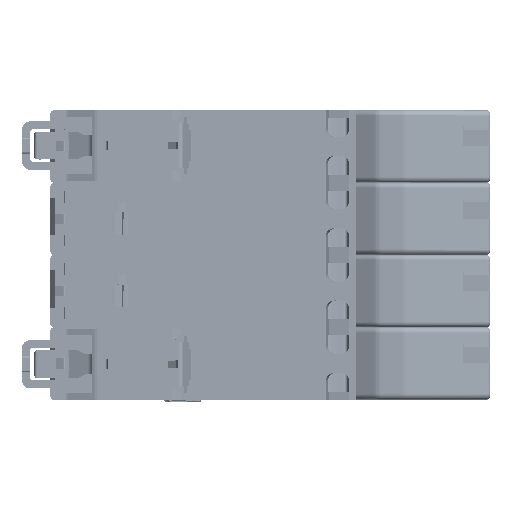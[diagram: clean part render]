
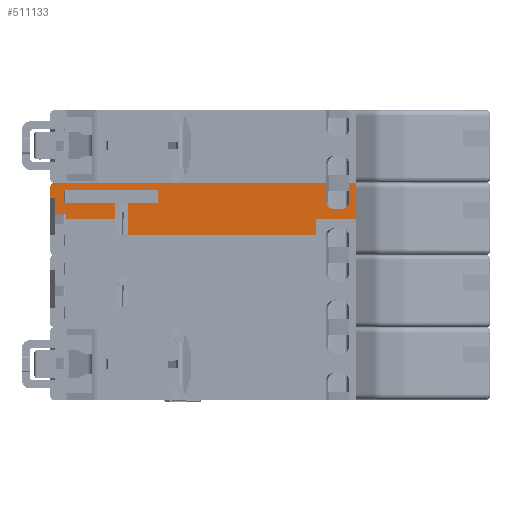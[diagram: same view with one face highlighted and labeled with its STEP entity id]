
A CAD part, top view. The second image highlights one B-rep face of the part: STEP entity #511133.
In plain terms, the highlighted planar face has unit normal (0, 0, 1).
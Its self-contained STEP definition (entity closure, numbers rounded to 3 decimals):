
#493748=DIRECTION('',(-1.,0.,0.));
#493749=VECTOR('',#493748,9.);
#493750=CARTESIAN_POINT('',(12.,33.888,-5.5));
#493751=LINE('',#493750,#493749);
#493935=DIRECTION('',(1.,0.,0.));
#493936=VECTOR('',#493935,0.8);
#493937=CARTESIAN_POINT('',(0.,37.838,-5.5));
#493938=LINE('',#493937,#493936);
#493939=DIRECTION('',(0.,-1.,0.));
#493940=VECTOR('',#493939,2.1);
#493941=CARTESIAN_POINT('',(0.,39.938,-5.5));
#493942=LINE('',#493941,#493940);
#493943=CARTESIAN_POINT('',(0.7,39.938,-5.5));
#493944=DIRECTION('',(0.,0.,1.));
#493945=DIRECTION('',(0.,1.,0.));
#493946=AXIS2_PLACEMENT_3D('',#493943,#493944,#493945);
#493948=DIRECTION('',(-1.,0.,0.));
#493949=VECTOR('',#493948,50.7);
#493950=CARTESIAN_POINT('',(51.4,40.638,-5.5));
#493951=LINE('',#493950,#493949);
#493952=DIRECTION('',(0.,1.,0.));
#493953=VECTOR('',#493952,3.5);
#493954=CARTESIAN_POINT('',(51.4,37.138,-5.5));
#493955=LINE('',#493954,#493953);
#493956=DIRECTION('',(-1.,0.,0.));
#493957=VECTOR('',#493956,1.233);
#493958=CARTESIAN_POINT('',(54.166,35.638,-5.5));
#493959=LINE('',#493958,#493957);
#493960=DIRECTION('',(-1.,0.,0.));
#493961=VECTOR('',#493960,2.8);
#493962=CARTESIAN_POINT('',(58.5,40.638,-5.5));
#493963=LINE('',#493962,#493961);
#493964=DIRECTION('',(0.,1.,0.));
#493965=VECTOR('',#493964,3.);
#493966=CARTESIAN_POINT('',(49.5,30.888,-5.5));
#493967=LINE('',#493966,#493965);
#493968=DIRECTION('',(1.,0.,0.));
#493969=VECTOR('',#493968,35.);
#493970=CARTESIAN_POINT('',(14.5,30.888,-5.5));
#493971=LINE('',#493970,#493969);
#493972=DIRECTION('',(-1.,0.,0.));
#493973=VECTOR('',#493972,5.5);
#493974=CARTESIAN_POINT('',(20.,36.888,-5.5));
#493975=LINE('',#493974,#493973);
#493976=DIRECTION('',(0.707,0.707,0.));
#493977=VECTOR('',#493976,0.424);
#493978=CARTESIAN_POINT('',(2.5,37.788,-5.5));
#493979=LINE('',#493978,#493977);
#493980=DIRECTION('',(0.,1.,0.));
#493981=VECTOR('',#493980,0.9);
#493982=CARTESIAN_POINT('',(2.5,36.888,-5.5));
#493983=LINE('',#493982,#493981);
#493984=DIRECTION('',(-1.,0.,0.));
#493985=VECTOR('',#493984,9.5);
#493986=CARTESIAN_POINT('',(12.,36.888,-5.5));
#493987=LINE('',#493986,#493985);
#493988=DIRECTION('',(0.206,-0.979,0.));
#493989=VECTOR('',#493988,0.971);
#493990=CARTESIAN_POINT('',(2.8,34.838,-5.5));
#493991=LINE('',#493990,#493989);
#493996=DIRECTION('',(0.,1.,0.));
#493997=VECTOR('',#493996,3.);
#493998=CARTESIAN_POINT('',(0.8,34.838,-5.5));
#493999=LINE('',#493998,#493997);
#494497=DIRECTION('',(0.,1.,0.));
#494498=VECTOR('',#494497,3.5);
#494499=CARTESIAN_POINT('',(55.7,37.138,-5.5));
#494500=LINE('',#494499,#494498);
#494549=DIRECTION('',(0.,-1.,0.));
#494550=VECTOR('',#494549,6.75);
#494551=CARTESIAN_POINT('',(58.5,40.638,-5.5));
#494552=LINE('',#494551,#494550);
#495063=CARTESIAN_POINT('',(54.166,35.638,-5.5));
#495064=CARTESIAN_POINT('',(54.419,35.638,-5.5));
#495065=CARTESIAN_POINT('',(54.818,35.745,-5.5));
#495066=CARTESIAN_POINT('',(55.27,36.052,-5.5));
#495067=CARTESIAN_POINT('',(55.587,36.493,-5.5));
#495068=CARTESIAN_POINT('',(55.7,36.886,-5.5));
#495069=CARTESIAN_POINT('',(55.7,37.138,-5.5));
#495175=DIRECTION('',(0.,1.,0.));
#495176=VECTOR('',#495175,1.2);
#495177=CARTESIAN_POINT('',(20.,36.888,-5.5));
#495178=LINE('',#495177,#495176);
#495195=DIRECTION('',(-1.,0.,0.));
#495196=VECTOR('',#495195,17.2);
#495197=CARTESIAN_POINT('',(20.,38.088,-5.5));
#495198=LINE('',#495197,#495196);
#501926=DIRECTION('',(0.,-1.,0.));
#501927=VECTOR('',#501926,3.);
#501928=CARTESIAN_POINT('',(12.,36.888,-5.5));
#501929=LINE('',#501928,#501927);
#501970=DIRECTION('',(0.,1.,0.));
#501971=VECTOR('',#501970,6.);
#501972=CARTESIAN_POINT('',(14.5,30.888,-5.5));
#501973=LINE('',#501972,#501971);
#502093=DIRECTION('',(-1.,0.,0.));
#502094=VECTOR('',#502093,9.);
#502095=CARTESIAN_POINT('',(58.5,33.888,-5.5));
#502096=LINE('',#502095,#502094);
#502167=CARTESIAN_POINT('',(51.4,37.138,-5.5));
#502168=CARTESIAN_POINT('',(51.4,36.886,-5.5));
#502169=CARTESIAN_POINT('',(51.513,36.493,-5.5));
#502170=CARTESIAN_POINT('',(51.83,36.052,-5.5));
#502171=CARTESIAN_POINT('',(52.282,35.745,-5.5));
#502172=CARTESIAN_POINT('',(52.681,35.638,-5.5));
#502173=CARTESIAN_POINT('',(52.934,35.638,-5.5));
#502191=DIRECTION('',(-1.,0.,0.));
#502192=VECTOR('',#502191,2.);
#502193=CARTESIAN_POINT('',(2.8,34.838,-5.5));
#502194=LINE('',#502193,#502192);
#506990=CARTESIAN_POINT('',(0.,37.838,-5.5));
#506991=CARTESIAN_POINT('',(0.8,37.838,-5.5));
#506992=VERTEX_POINT('',#506990);
#506993=VERTEX_POINT('',#506991);
#506994=CARTESIAN_POINT('',(0.8,34.838,-5.5));
#506995=VERTEX_POINT('',#506994);
#506996=CARTESIAN_POINT('',(2.8,34.838,-5.5));
#506997=VERTEX_POINT('',#506996);
#506998=CARTESIAN_POINT('',(3.,33.888,-5.5));
#506999=VERTEX_POINT('',#506998);
#507000=CARTESIAN_POINT('',(12.,33.888,-5.5));
#507001=VERTEX_POINT('',#507000);
#507002=CARTESIAN_POINT('',(12.,36.888,-5.5));
#507003=VERTEX_POINT('',#507002);
#507004=CARTESIAN_POINT('',(2.5,36.888,-5.5));
#507005=VERTEX_POINT('',#507004);
#507006=CARTESIAN_POINT('',(2.5,37.788,-5.5));
#507007=VERTEX_POINT('',#507006);
#507008=CARTESIAN_POINT('',(2.8,38.088,-5.5));
#507009=VERTEX_POINT('',#507008);
#507010=CARTESIAN_POINT('',(20.,38.088,-5.5));
#507011=VERTEX_POINT('',#507010);
#507012=CARTESIAN_POINT('',(20.,36.888,-5.5));
#507013=VERTEX_POINT('',#507012);
#507014=CARTESIAN_POINT('',(14.5,36.888,-5.5));
#507015=VERTEX_POINT('',#507014);
#507016=CARTESIAN_POINT('',(14.5,30.888,-5.5));
#507017=VERTEX_POINT('',#507016);
#507018=CARTESIAN_POINT('',(49.5,30.888,-5.5));
#507019=VERTEX_POINT('',#507018);
#507020=CARTESIAN_POINT('',(49.5,33.888,-5.5));
#507021=VERTEX_POINT('',#507020);
#507022=CARTESIAN_POINT('',(58.5,33.888,-5.5));
#507023=VERTEX_POINT('',#507022);
#507024=CARTESIAN_POINT('',(58.5,40.638,-5.5));
#507025=VERTEX_POINT('',#507024);
#507026=CARTESIAN_POINT('',(55.7,40.638,-5.5));
#507027=VERTEX_POINT('',#507026);
#507028=CARTESIAN_POINT('',(55.7,37.138,-5.5));
#507029=VERTEX_POINT('',#507028);
#507030=VERTEX_POINT('',#495063);
#507031=CARTESIAN_POINT('',(52.934,35.638,-5.5));
#507032=VERTEX_POINT('',#507031);
#507033=VERTEX_POINT('',#502167);
#507034=CARTESIAN_POINT('',(51.4,40.638,-5.5));
#507035=VERTEX_POINT('',#507034);
#507036=CARTESIAN_POINT('',(0.7,40.638,-5.5));
#507037=VERTEX_POINT('',#507036);
#507038=CARTESIAN_POINT('',(0.,39.938,-5.5));
#507039=VERTEX_POINT('',#507038);
#511075=CARTESIAN_POINT('',(0.,33.888,-5.5));
#511076=DIRECTION('',(0.,0.,1.));
#511077=DIRECTION('',(1.,0.,0.));
#511078=AXIS2_PLACEMENT_3D('',#511075,#511076,#511077);
#511079=PLANE('',#511078);
#511081=ORIENTED_EDGE('',*,*,#511080,.F.);
#511083=ORIENTED_EDGE('',*,*,#511082,.F.);
#511085=ORIENTED_EDGE('',*,*,#511084,.F.);
#511087=ORIENTED_EDGE('',*,*,#511086,.F.);
#511089=ORIENTED_EDGE('',*,*,#511088,.F.);
#511091=ORIENTED_EDGE('',*,*,#511090,.T.);
#511093=ORIENTED_EDGE('',*,*,#511092,.F.);
#511095=ORIENTED_EDGE('',*,*,#511094,.T.);
#511097=ORIENTED_EDGE('',*,*,#511096,.T.);
#511099=ORIENTED_EDGE('',*,*,#511098,.F.);
#511101=ORIENTED_EDGE('',*,*,#511100,.T.);
#511103=ORIENTED_EDGE('',*,*,#511102,.T.);
#511105=ORIENTED_EDGE('',*,*,#511104,.F.);
#511107=ORIENTED_EDGE('',*,*,#511106,.F.);
#511109=ORIENTED_EDGE('',*,*,#511108,.T.);
#511111=ORIENTED_EDGE('',*,*,#511110,.F.);
#511113=ORIENTED_EDGE('',*,*,#511112,.T.);
#511115=ORIENTED_EDGE('',*,*,#511114,.T.);
#511117=ORIENTED_EDGE('',*,*,#511116,.F.);
#511119=ORIENTED_EDGE('',*,*,#511118,.F.);
#511121=ORIENTED_EDGE('',*,*,#511120,.F.);
#511123=ORIENTED_EDGE('',*,*,#511122,.T.);
#511124=ORIENTED_EDGE('',*,*,#510763,.T.);
#511126=ORIENTED_EDGE('',*,*,#511125,.F.);
#511128=ORIENTED_EDGE('',*,*,#511127,.T.);
#511130=ORIENTED_EDGE('',*,*,#511129,.T.);
#511131=EDGE_LOOP('',(#511081,#511083,#511085,#511087,#511089,#511091,#511093,
#511095,#511097,#511099,#511101,#511103,#511105,#511107,#511109,#511111,#511113,
#511115,#511117,#511119,#511121,#511123,#511124,#511126,#511128,#511130));
#511132=FACE_OUTER_BOUND('',#511131,.F.);
#511133=ADVANCED_FACE('',(#511132),#511079,.T.);
#493947=CIRCLE('',#493946,0.7);
#495070=B_SPLINE_CURVE_WITH_KNOTS('',3,(#495063,#495064,#495065,#495066,#495067,
#495068,#495069),.UNSPECIFIED.,.F.,.F.,(4,1,1,1,4),(0.,0.25,0.5,0.75,
1.),.UNSPECIFIED.);
#502174=B_SPLINE_CURVE_WITH_KNOTS('',3,(#502167,#502168,#502169,#502170,#502171,
#502172,#502173),.UNSPECIFIED.,.F.,.F.,(4,1,1,1,4),(0.,0.25,0.5,0.75,
1.),.UNSPECIFIED.);
#510763=EDGE_CURVE('',#507001,#506999,#493751,.T.);
#511080=EDGE_CURVE('',#506992,#506993,#493938,.T.);
#511082=EDGE_CURVE('',#507039,#506992,#493942,.T.);
#511084=EDGE_CURVE('',#507037,#507039,#493947,.T.);
#511086=EDGE_CURVE('',#507035,#507037,#493951,.T.);
#511088=EDGE_CURVE('',#507033,#507035,#493955,.T.);
#511090=EDGE_CURVE('',#507033,#507032,#502174,.T.);
#511092=EDGE_CURVE('',#507030,#507032,#493959,.T.);
#511094=EDGE_CURVE('',#507030,#507029,#495070,.T.);
#511096=EDGE_CURVE('',#507029,#507027,#494500,.T.);
#511098=EDGE_CURVE('',#507025,#507027,#493963,.T.);
#511100=EDGE_CURVE('',#507025,#507023,#494552,.T.);
#511102=EDGE_CURVE('',#507023,#507021,#502096,.T.);
#511104=EDGE_CURVE('',#507019,#507021,#493967,.T.);
#511106=EDGE_CURVE('',#507017,#507019,#493971,.T.);
#511108=EDGE_CURVE('',#507017,#507015,#501973,.T.);
#511110=EDGE_CURVE('',#507013,#507015,#493975,.T.);
#511112=EDGE_CURVE('',#507013,#507011,#495178,.T.);
#511114=EDGE_CURVE('',#507011,#507009,#495198,.T.);
#511116=EDGE_CURVE('',#507007,#507009,#493979,.T.);
#511118=EDGE_CURVE('',#507005,#507007,#493983,.T.);
#511120=EDGE_CURVE('',#507003,#507005,#493987,.T.);
#511122=EDGE_CURVE('',#507003,#507001,#501929,.T.);
#511125=EDGE_CURVE('',#506997,#506999,#493991,.T.);
#511127=EDGE_CURVE('',#506997,#506995,#502194,.T.);
#511129=EDGE_CURVE('',#506995,#506993,#493999,.T.);
